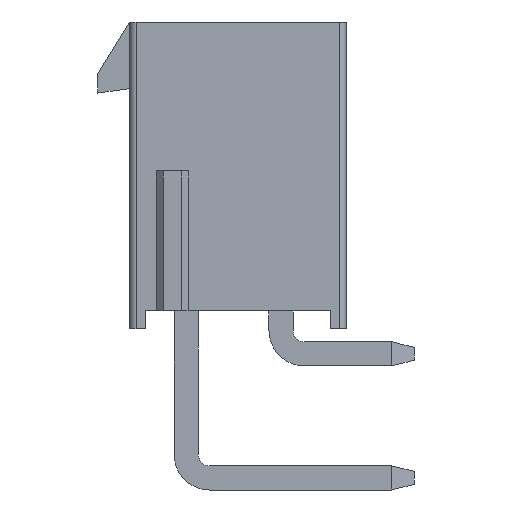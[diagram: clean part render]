
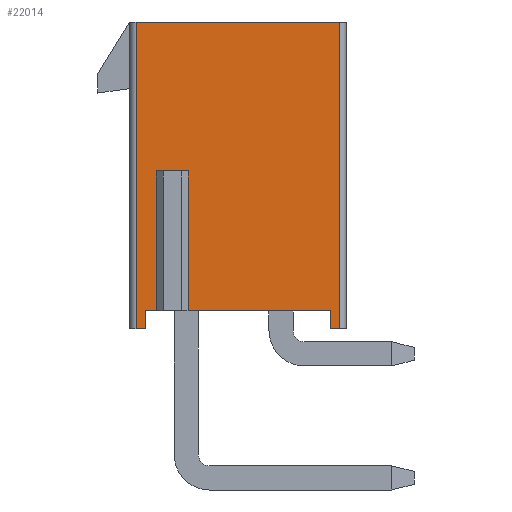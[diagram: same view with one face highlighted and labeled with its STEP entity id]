
A CAD part, left-side view. The second image highlights one B-rep face of the part: STEP entity #22014.
In plain terms, the highlighted planar face has unit normal (-1, 0, 0).
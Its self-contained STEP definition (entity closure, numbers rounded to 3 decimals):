
#255=DIRECTION('',(0.,0.,1.));
#256=VECTOR('',#255,13.6);
#257=CARTESIAN_POINT('',(-2.7,11.836,-9.6));
#258=LINE('',#257,#256);
#259=DIRECTION('',(0.,-1.,0.));
#260=VECTOR('',#259,9.);
#261=CARTESIAN_POINT('',(-2.7,11.836,4.));
#262=LINE('',#261,#260);
#263=DIRECTION('',(0.,-1.,0.));
#264=VECTOR('',#263,1.4);
#265=CARTESIAN_POINT('',(-2.7,10.936,-2.6));
#266=LINE('',#265,#264);
#275=DIRECTION('',(0.,0.,-1.));
#276=VECTOR('',#275,6.2);
#277=CARTESIAN_POINT('',(-2.7,9.536,-2.6));
#278=LINE('',#277,#276);
#494=DIRECTION('',(0.,-1.,0.));
#495=VECTOR('',#494,0.5);
#496=CARTESIAN_POINT('',(-2.7,11.436,-8.8));
#497=LINE('',#496,#495);
#506=DIRECTION('',(0.,-1.,0.));
#507=VECTOR('',#506,6.3);
#508=CARTESIAN_POINT('',(-2.7,9.536,-8.8));
#509=LINE('',#508,#507);
#2557=DIRECTION('',(0.,0.,-1.));
#2558=VECTOR('',#2557,0.8);
#2559=CARTESIAN_POINT('',(-2.7,3.236,-8.8));
#2560=LINE('',#2559,#2558);
#2565=DIRECTION('',(0.,-1.,0.));
#2566=VECTOR('',#2565,0.4);
#2567=CARTESIAN_POINT('',(-2.7,3.236,-9.6));
#2568=LINE('',#2567,#2566);
#2582=DIRECTION('',(0.,0.,1.));
#2583=VECTOR('',#2582,13.6);
#2584=CARTESIAN_POINT('',(-2.7,2.836,-9.6));
#2585=LINE('',#2584,#2583);
#2849=DIRECTION('',(0.,-1.,0.));
#2850=VECTOR('',#2849,0.4);
#2851=CARTESIAN_POINT('',(-2.7,11.836,-9.6));
#2852=LINE('',#2851,#2850);
#2891=DIRECTION('',(0.,0.,1.));
#2892=VECTOR('',#2891,0.8);
#2893=CARTESIAN_POINT('',(-2.7,11.436,-9.6));
#2894=LINE('',#2893,#2892);
#4381=DIRECTION('',(0.,0.,1.));
#4382=VECTOR('',#4381,6.2);
#4383=CARTESIAN_POINT('',(-2.7,10.936,-8.8));
#4384=LINE('',#4383,#4382);
#17425=CARTESIAN_POINT('',(-2.7,11.836,4.));
#17427=VERTEX_POINT('',#17425);
#17444=CARTESIAN_POINT('',(-2.7,2.836,4.));
#17446=VERTEX_POINT('',#17444);
#17687=CARTESIAN_POINT('',(-2.7,11.836,-9.6));
#17688=VERTEX_POINT('',#17687);
#17689=CARTESIAN_POINT('',(-2.7,10.936,-2.6));
#17690=CARTESIAN_POINT('',(-2.7,9.536,-2.6));
#17691=VERTEX_POINT('',#17689);
#17692=VERTEX_POINT('',#17690);
#17693=CARTESIAN_POINT('',(-2.7,10.936,-8.8));
#17694=VERTEX_POINT('',#17693);
#17695=CARTESIAN_POINT('',(-2.7,11.436,-9.6));
#17696=CARTESIAN_POINT('',(-2.7,11.436,-8.8));
#17697=VERTEX_POINT('',#17695);
#17698=VERTEX_POINT('',#17696);
#17699=CARTESIAN_POINT('',(-2.7,9.536,-8.8));
#17700=VERTEX_POINT('',#17699);
#18797=CARTESIAN_POINT('',(-2.7,3.236,-8.8));
#18798=VERTEX_POINT('',#18797);
#19943=CARTESIAN_POINT('',(-2.7,3.236,-9.6));
#19944=VERTEX_POINT('',#19943);
#20055=CARTESIAN_POINT('',(-2.7,2.836,-9.6));
#20056=VERTEX_POINT('',#20055);
#21985=CARTESIAN_POINT('',(-2.7,7.336,-2.8));
#21986=DIRECTION('',(1.,0.,0.));
#21987=DIRECTION('',(0.,-1.,0.));
#21988=AXIS2_PLACEMENT_3D('',#21985,#21986,#21987);
#21989=PLANE('',#21988);
#21991=ORIENTED_EDGE('',*,*,#21990,.F.);
#21993=ORIENTED_EDGE('',*,*,#21992,.F.);
#21995=ORIENTED_EDGE('',*,*,#21994,.F.);
#21997=ORIENTED_EDGE('',*,*,#21996,.F.);
#21999=ORIENTED_EDGE('',*,*,#21998,.F.);
#22000=ORIENTED_EDGE('',*,*,#21975,.T.);
#22001=ORIENTED_EDGE('',*,*,#21679,.T.);
#22003=ORIENTED_EDGE('',*,*,#22002,.F.);
#22005=ORIENTED_EDGE('',*,*,#22004,.F.);
#22007=ORIENTED_EDGE('',*,*,#22006,.F.);
#22009=ORIENTED_EDGE('',*,*,#22008,.F.);
#22011=ORIENTED_EDGE('',*,*,#22010,.F.);
#22012=EDGE_LOOP('',(#21991,#21993,#21995,#21997,#21999,#22000,#22001,#22003,
#22005,#22007,#22009,#22011));
#22013=FACE_OUTER_BOUND('',#22012,.F.);
#22014=ADVANCED_FACE('',(#22013),#21989,.F.);
#21679=EDGE_CURVE('',#17427,#17446,#262,.T.);
#21975=EDGE_CURVE('',#17688,#17427,#258,.T.);
#21990=EDGE_CURVE('',#17691,#17692,#266,.T.);
#21992=EDGE_CURVE('',#17694,#17691,#4384,.T.);
#21994=EDGE_CURVE('',#17698,#17694,#497,.T.);
#21996=EDGE_CURVE('',#17697,#17698,#2894,.T.);
#21998=EDGE_CURVE('',#17688,#17697,#2852,.T.);
#22002=EDGE_CURVE('',#20056,#17446,#2585,.T.);
#22004=EDGE_CURVE('',#19944,#20056,#2568,.T.);
#22006=EDGE_CURVE('',#18798,#19944,#2560,.T.);
#22008=EDGE_CURVE('',#17700,#18798,#509,.T.);
#22010=EDGE_CURVE('',#17692,#17700,#278,.T.);
